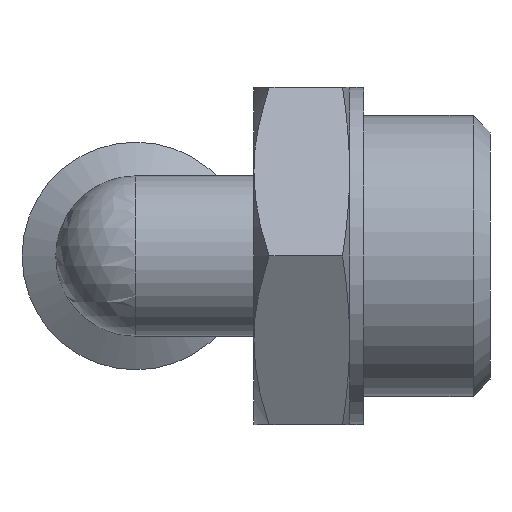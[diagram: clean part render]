
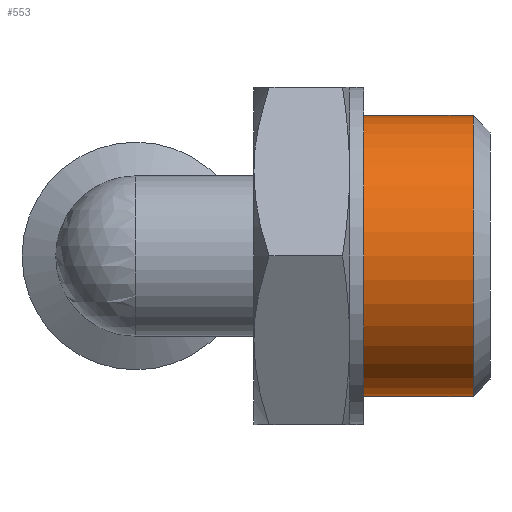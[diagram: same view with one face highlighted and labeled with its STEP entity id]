
A CAD part, left-side view. The second image highlights one B-rep face of the part: STEP entity #553.
In plain terms, the highlighted cylindrical face has radius 8.331 mm (diameter 16.662 mm), a full revolution.
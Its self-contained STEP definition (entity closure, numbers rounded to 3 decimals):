
#88=CYLINDRICAL_SURFACE($,#611,8.331);
#103=FACE_BOUND($,#178,.T.);
#129=FACE_OUTER_BOUND($,#177,.T.);
#177=EDGE_LOOP($,(#412));
#178=EDGE_LOOP($,(#413));
#234=CIRCLE($,#610,8.331);
#235=CIRCLE($,#612,8.331);
#273=VERTEX_POINT($,#883);
#274=VERTEX_POINT($,#886);
#326=EDGE_CURVE($,#273,#273,#234,.T.);
#327=EDGE_CURVE($,#274,#274,#235,.T.);
#412=ORIENTED_EDGE($,*,*,#327,.F.);
#413=ORIENTED_EDGE($,*,*,#326,.F.);
#553=ADVANCED_FACE($,(#129,#103),#88,.T.);
#610=AXIS2_PLACEMENT_3D($,#884,#717,#718);
#611=AXIS2_PLACEMENT_3D($,#885,#719,#720);
#612=AXIS2_PLACEMENT_3D($,#887,#721,#722);
#717=DIRECTION('center_axis',(0.,-1.,0.));
#718=DIRECTION('ref_axis',(1.,0.,0.));
#719=DIRECTION('center_axis',(0.,1.,0.));
#720=DIRECTION('ref_axis',(-1.,0.,0.));
#721=DIRECTION('center_axis',(0.,1.,0.));
#722=DIRECTION('ref_axis',(-1.,0.,0.));
#883=CARTESIAN_POINT('',(-8.331,-20.,0.));
#884=CARTESIAN_POINT('Origin',(0.,-20.,0.));
#885=CARTESIAN_POINT('Origin',(0.,-17.25,0.));
#886=CARTESIAN_POINT('',(-8.331,-13.5,0.));
#887=CARTESIAN_POINT('Origin',(0.,-13.5,0.));
